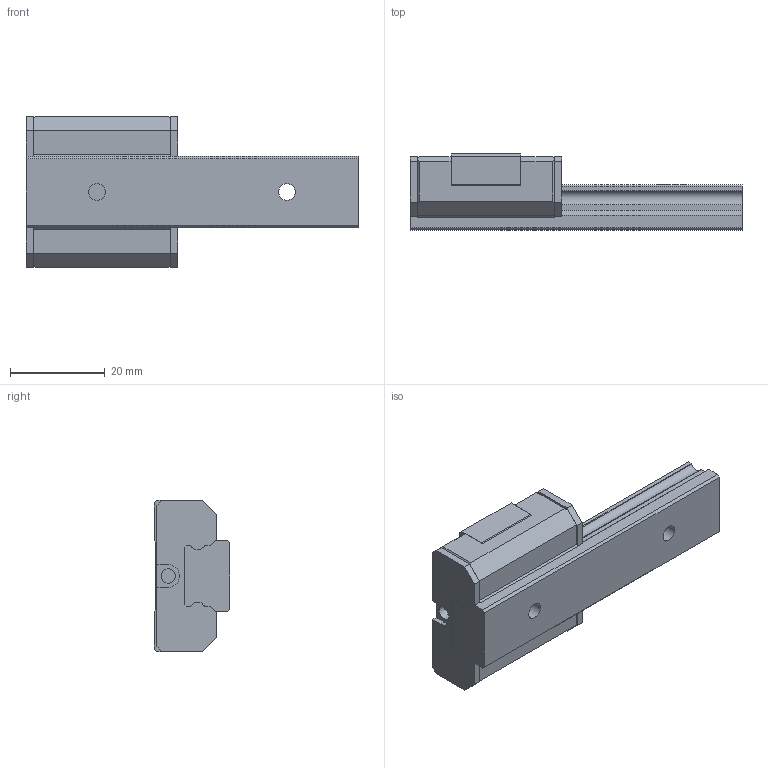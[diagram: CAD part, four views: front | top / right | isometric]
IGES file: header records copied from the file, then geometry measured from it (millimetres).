
Start section: Data from Parasolid IGES Translator 26.0.171, Copyright(c) 2006 Siemens PLM Software. All Rights Reserved.
Global section: file name: SRS15SSS-70LM_G15_0_Without_grease_nipple_0_0_0_0_1.igs; native system: By Siemens PLM Incorporated; preprocessor: XPlus GENERIC/IGES 26.0.171; author: Noname; organization: Noname; date: 20240517.091308; units: millimetre
Bounding box: 70 x 16 x 32 mm (x, y, z)
Surface area: 7852.1 mm2 (no closed solid volume)
Topology: 0 solids, 0 shells, 130 faces, 702 edges, 688 vertices
Faces by surface type: extrusion 100, revolution 30
